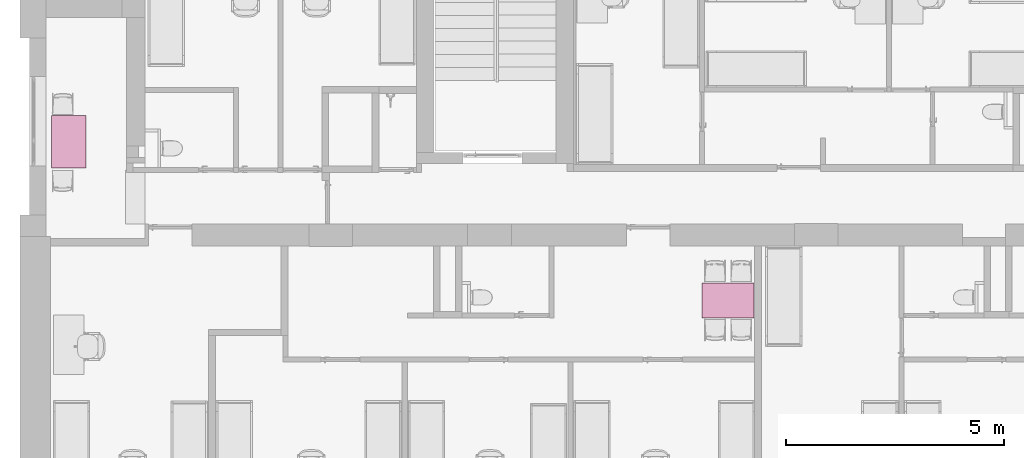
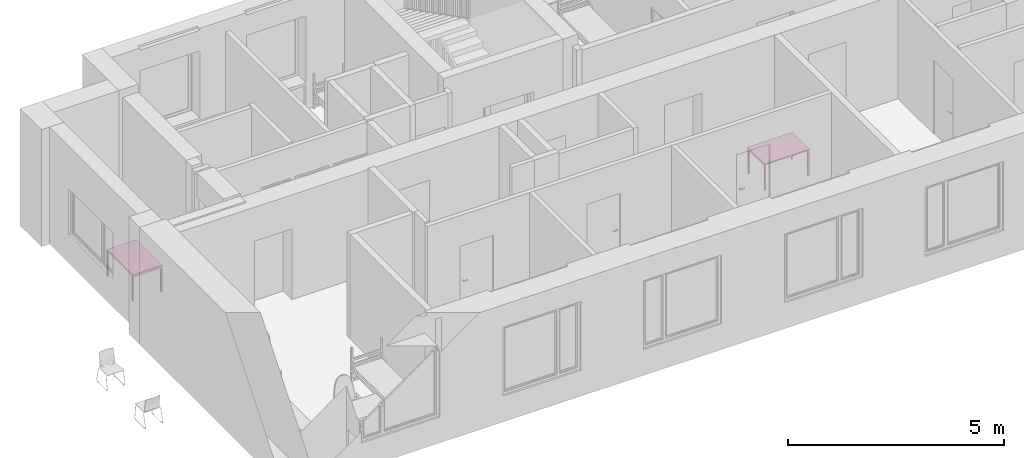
# One storey, part 26 of 48: 2 furnishings.
"""IFC2X3 building model written with IfcOpenShell, lengths in millimetres."""

from ifc_helpers import new_model, entity, si_unit, converted_unit, derived_unit, direction, frame, frame_2d, origin, origin_2d_with_axis, place, context, subcontext, project, spatial, polyline, rectangle, circle, outline, extrude, source, transform, mapped, material, material_list, type_object, type_shapes, element, save


model = new_model("IFC2X3")

# Units and contexts
model_context = context("Model", 3, precision=0.01, world=origin(), true_north=direction((6.12303176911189e-17, 1.0)))
body_context = subcontext(model_context, "Body", "Model", "MODEL_VIEW")
ifc_project = project(units=[si_unit("LENGTHUNIT", "METRE", prefix="MILLI"), si_unit("AREAUNIT", "SQUARE_METRE"), si_unit("VOLUMEUNIT", "CUBIC_METRE"), converted_unit("PLANEANGLEUNIT", "DEGREE", entity("IfcRatioMeasure", 0.0174532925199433), si_unit("PLANEANGLEUNIT", "RADIAN"), dimensions=[0, 0, 0, 0, 0, 0, 0]), si_unit("MASSUNIT", "GRAM", prefix="KILO"), derived_unit("MASSDENSITYUNIT", [(si_unit("MASSUNIT", "GRAM", prefix="KILO"), 1), (si_unit("LENGTHUNIT", "METRE"), -3)]), si_unit("TIMEUNIT", "SECOND"), si_unit("FREQUENCYUNIT", "HERTZ"), si_unit("THERMODYNAMICTEMPERATUREUNIT", "DEGREE_CELSIUS"), derived_unit("THERMALTRANSMITTANCEUNIT", [(si_unit("MASSUNIT", "GRAM", prefix="KILO"), 1), (si_unit("THERMODYNAMICTEMPERATUREUNIT", "KELVIN"), -1), (si_unit("TIMEUNIT", "SECOND"), -3)]), derived_unit("VOLUMETRICFLOWRATEUNIT", [(si_unit("LENGTHUNIT", "METRE"), 3), (si_unit("TIMEUNIT", "SECOND"), -1)]), si_unit("ELECTRICCURRENTUNIT", "AMPERE"), si_unit("ELECTRICVOLTAGEUNIT", "VOLT"), si_unit("POWERUNIT", "WATT"), si_unit("FORCEUNIT", "NEWTON", prefix="KILO"), si_unit("ILLUMINANCEUNIT", "LUX"), si_unit("LUMINOUSFLUXUNIT", "LUMEN"), si_unit("LUMINOUSINTENSITYUNIT", "CANDELA"), derived_unit("USERDEFINED", [(si_unit("MASSUNIT", "GRAM", prefix="KILO"), -1), (si_unit("LENGTHUNIT", "METRE"), -2), (si_unit("TIMEUNIT", "SECOND"), 3), (si_unit("LUMINOUSFLUXUNIT", "LUMEN"), 1)]), derived_unit("LINEARVELOCITYUNIT", [(si_unit("LENGTHUNIT", "METRE"), 1), (si_unit("TIMEUNIT", "SECOND"), -1)]), si_unit("PRESSUREUNIT", "PASCAL"), derived_unit("USERDEFINED", [(si_unit("LENGTHUNIT", "METRE"), -2), (si_unit("MASSUNIT", "GRAM", prefix="KILO"), 1), (si_unit("TIMEUNIT", "SECOND"), -2)]), derived_unit("LINEARFORCEUNIT", [(si_unit("MASSUNIT", "GRAM", prefix="KILO"), 1), (si_unit("LENGTHUNIT", "METRE"), 1), (si_unit("TIMEUNIT", "SECOND"), -2), (si_unit("LENGTHUNIT", "METRE"), -1)]), derived_unit("PLANARFORCEUNIT", [(si_unit("MASSUNIT", "GRAM", prefix="KILO"), 1), (si_unit("LENGTHUNIT", "METRE"), 1), (si_unit("TIMEUNIT", "SECOND"), -2), (si_unit("LENGTHUNIT", "METRE"), -2)])], contexts=[model_context])

# Site, building, storey, space
site_placement = place(None, origin())
site = spatial("IfcSite", under=ifc_project, at=site_placement, Name="Default", CompositionType="ELEMENT")
building_placement = place(site_placement, origin())
building = spatial("IfcBuilding", under=site, at=building_placement, Name="SMA ARH", CompositionType="ELEMENT")
storey_placement = place(building_placement, frame((0.0, 0.0, 6600.0)))
storey = spatial("IfcBuildingStorey", under=building, at=storey_placement, Name="3 Korrus", CompositionType="ELEMENT", Elevation=6599.99999999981)
space_1_placement = place(storey_placement, origin())
space_1 = spatial("IfcSpace", under=storey, at=space_1_placement, Name="3-16", CompositionType="ELEMENT", InteriorOrExteriorSpace="INTERNAL")

# Furnishing
ifc_material_1 = material(Name="Metal - Stud Layer")
ifc_material_2 = material(Name="<Unnamed>")
ifc_material_list = material_list([ifc_material_1, ifc_material_2])
furniture_type = type_object("IfcFurnitureType", Name="laud_1200x800:laud_1200x800", material=ifc_material_list)
shared_shape = source(origin(), body_context, "Body", "SweptSolid", [
    extrude(rectangle(XDim=800.0, YDim=1200.0, at=origin_2d_with_axis()), frame((-150.0, 550.0, 720.0), z_axis=(0.0, 0.0, 1.0), x_axis=(-1.0, 0.0, 0.0)), (0.0, 0.0, 1.0), 29.9999999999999),
    extrude(outline(polyline([(-400.0, -365.0), (400.0, -365.0), (400.0, 345.0), (360.0, 345.0), (360.0, -325.0), (-360.0, -325.0), (-360.0, 345.0), (-400.0, 345.0), (-400.0, -365.0)])), frame((-150.0, -50.0, 355.0), z_axis=(0.0, 1.0, 0.0), x_axis=(1.0, 0.0, 0.0)), (0.0, 0.0, 1.0), 40.0000000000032),
    extrude(outline(polyline([(-400.0, -365.0), (400.0, -365.0), (400.0, 345.0), (360.0, 345.0), (360.0, -325.0), (-360.0, -325.0), (-360.0, 345.0), (-400.0, 345.0), (-400.0, -365.0)])), frame((-150.0, 1110.0, 355.0), z_axis=(0.0, 1.0, 0.0), x_axis=(1.0, 0.0, 0.0)), (0.0, 0.0, 1.0), 40.0000000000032),
    extrude(circle(Radius=15.0, at=frame_2d((0.0, 5.07593966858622e-14), x_axis=(1.0, 0.0))), frame((-529.847171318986, -29.9550233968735, 0.0)), (0.0, 0.0, 1.0), 10.0),
    extrude(circle(Radius=15.0, at=origin_2d_with_axis()), frame((-529.847171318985, 1129.95502339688, 0.0)), (0.0, 0.0, 1.0), 10.0),
    extrude(circle(Radius=15.0, at=origin_2d_with_axis()), frame((230.152828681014, -29.9550233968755, 0.0)), (0.0, 0.0, 1.0), 10.0),
    extrude(circle(Radius=15.0, at=origin_2d_with_axis()), frame((230.152828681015, 1129.95502339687, 0.0)), (0.0, 0.0, 1.0), 10.0),
])
type_shapes(furniture_type, [shared_shape])
furnishing_1_placement = place(space_1_placement, frame((16101.2909917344, 4910.0, 0.0), z_axis=(0.0, 0.0, 1.0), x_axis=(0.0, 1.0, 0.0)))
element("IfcFurnishingElement", 1, at=furnishing_1_placement, inside=space_1, type_object=furniture_type, material=ifc_material_1, Name="laud_1200x800:laud_1200x800", ObjectType="laud_1200x800:laud_1200x800", context=body_context, shape_type="MappedRepresentation", body=[
    mapped(shared_shape, transform((0.0, 0.0, 0.0), scale=1.0)),
])

# Space
space_2_placement = place(storey_placement, origin())
space_2 = spatial("IfcSpace", under=storey, at=space_2_placement, Name="3-18", CompositionType="ELEMENT", InteriorOrExteriorSpace="INTERNAL")

# Furnishing
furnishing_2_placement = place(space_2_placement, frame((570.0, 7849.0, 0.0)))
element("IfcFurnishingElement", 2, at=furnishing_2_placement, inside=space_2, type_object=furniture_type, material=ifc_material_1, Name="laud_1200x800:laud_1200x800", ObjectType="laud_1200x800:laud_1200x800", context=body_context, shape_type="MappedRepresentation", body=[
    mapped(shared_shape, transform((0.0, 0.0, 0.0), scale=1.0)),
])

save(model, "model.ifc")
